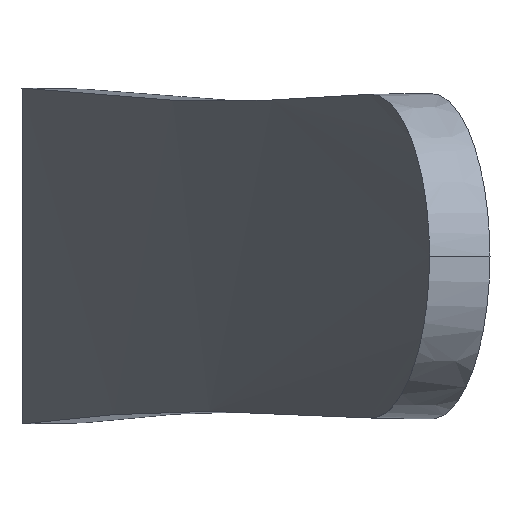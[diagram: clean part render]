
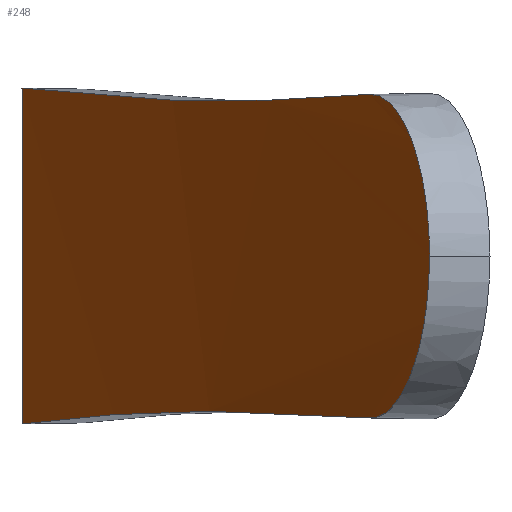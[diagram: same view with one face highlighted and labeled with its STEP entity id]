
A CAD part, left-side view. The second image highlights one B-rep face of the part: STEP entity #248.
In plain terms, the highlighted cylindrical face has radius 1577.46 mm (diameter 3154.93 mm), a partial arc.
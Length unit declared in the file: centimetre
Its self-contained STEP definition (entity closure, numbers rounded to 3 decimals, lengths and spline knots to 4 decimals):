
#19=ELLIPSE('',#265,0.662,0.4345);
#20=ELLIPSE('',#266,1.097,1.0299);
#21=CYLINDRICAL_SURFACE('',#264,157.7463);
#29=LINE('',#415,#40);
#40=VECTOR('',#287,1.);
#56=FACE_OUTER_BOUND('',#71,.T.);
#71=EDGE_LOOP('',(#176,#177,#178,#179,#180,#181,#182,#183,#184,#185,#186));
#84=B_SPLINE_CURVE_WITH_KNOTS('',3,(#333,#334,#335,#336),.UNSPECIFIED.,
 .F.,.F.,(4,4),(-6.1063,-5.673),.UNSPECIFIED.);
#87=B_SPLINE_CURVE_WITH_KNOTS('',3,(#388,#389,#390,#391,#392),
 .UNSPECIFIED.,.F.,.F.,(4,1,4),(5.7285,6.1311,6.668),
 .UNSPECIFIED.);
#88=B_SPLINE_CURVE_WITH_KNOTS('',3,(#395,#396,#397,#398,#399,#400,#401,
#402,#403,#404),.UNSPECIFIED.,.F.,.F.,(4,3,3,4),(0.,0.4429,0.4842,
0.5626),.UNSPECIFIED.);
#89=B_SPLINE_CURVE_WITH_KNOTS('',3,(#406,#407,#408,#409,#410,#411,#412,
#413),.UNSPECIFIED.,.F.,.F.,(4,2,2,4),(0.,3.5186,5.2771,
7.1395),.UNSPECIFIED.);
#90=B_SPLINE_CURVE_WITH_KNOTS('',3,(#416,#417,#418,#419,#420,#421),
 .UNSPECIFIED.,.F.,.F.,(4,2,4),(0.,4.5118,7.0242),
 .UNSPECIFIED.);
#91=B_SPLINE_CURVE_WITH_KNOTS('',3,(#423,#424,#425,#426,#427,#428,#429),
 .UNSPECIFIED.,.F.,.F.,(4,3,4),(0.6529,0.7263,0.7527),
 .UNSPECIFIED.);
#92=B_SPLINE_CURVE_WITH_KNOTS('',3,(#431,#432,#433,#434,#435,#436),
 .UNSPECIFIED.,.F.,.F.,(4,2,4),(0.,0.3632,0.6529),
 .UNSPECIFIED.);
#93=B_SPLINE_CURVE_WITH_KNOTS('',3,(#441,#442,#443,#444),.UNSPECIFIED.,
 .F.,.F.,(4,4),(0.9973,1.1982),.UNSPECIFIED.);
#104=VERTEX_POINT('',#324);
#105=VERTEX_POINT('',#325);
#112=VERTEX_POINT('',#378);
#113=VERTEX_POINT('',#379);
#114=VERTEX_POINT('',#394);
#115=VERTEX_POINT('',#405);
#116=VERTEX_POINT('',#414);
#117=VERTEX_POINT('',#422);
#118=VERTEX_POINT('',#430);
#119=VERTEX_POINT('',#437);
#120=VERTEX_POINT('',#439);
#129=EDGE_CURVE('',#104,#105,#84,.T.);
#138=EDGE_CURVE('',#112,#113,#87,.T.);
#139=EDGE_CURVE('',#114,#104,#88,.T.);
#140=EDGE_CURVE('',#115,#114,#89,.T.);
#141=EDGE_CURVE('',#116,#115,#29,.T.);
#142=EDGE_CURVE('',#113,#116,#90,.T.);
#143=EDGE_CURVE('',#117,#112,#91,.T.);
#144=EDGE_CURVE('',#118,#117,#92,.T.);
#145=EDGE_CURVE('',#119,#118,#19,.T.);
#146=EDGE_CURVE('',#120,#119,#20,.T.);
#147=EDGE_CURVE('',#105,#120,#93,.T.);
#176=ORIENTED_EDGE('',*,*,#139,.F.);
#177=ORIENTED_EDGE('',*,*,#140,.F.);
#178=ORIENTED_EDGE('',*,*,#141,.F.);
#179=ORIENTED_EDGE('',*,*,#142,.F.);
#180=ORIENTED_EDGE('',*,*,#138,.F.);
#181=ORIENTED_EDGE('',*,*,#143,.F.);
#182=ORIENTED_EDGE('',*,*,#144,.F.);
#183=ORIENTED_EDGE('',*,*,#145,.F.);
#184=ORIENTED_EDGE('',*,*,#146,.F.);
#185=ORIENTED_EDGE('',*,*,#147,.F.);
#186=ORIENTED_EDGE('',*,*,#129,.F.);
#248=ADVANCED_FACE('',(#56),#21,.T.);
#264=AXIS2_PLACEMENT_3D('',#393,#285,#286);
#265=AXIS2_PLACEMENT_3D('',#438,#288,#289);
#266=AXIS2_PLACEMENT_3D('',#440,#290,#291);
#285=DIRECTION('center_axis',(0.,0.,-1.));
#286=DIRECTION('ref_axis',(-0.269,0.963,0.));
#287=DIRECTION('',(0.,0.,1.));
#288=DIRECTION('center_axis',(0.339,-0.941,0.));
#289=DIRECTION('ref_axis',(-0.216,-0.078,-0.973));
#290=DIRECTION('center_axis',(0.338,-0.941,0.));
#291=DIRECTION('ref_axis',(0.941,0.338,0.005));
#324=CARTESIAN_POINT('',(-21.5022,1.0685,0.8955));
#325=CARTESIAN_POINT('',(-21.8231,0.9538,0.6316));
#333=CARTESIAN_POINT('Ctrl Pts',(-21.5022,1.0685,0.8955));
#334=CARTESIAN_POINT('Ctrl Pts',(-21.6243,1.025,0.8311));
#335=CARTESIAN_POINT('Ctrl Pts',(-21.7345,0.9856,0.7413));
#336=CARTESIAN_POINT('Ctrl Pts',(-21.8231,0.9538,0.6316));
#378=CARTESIAN_POINT('',(-21.7878,0.9664,-0.6829));
#379=CARTESIAN_POINT('',(-20.9889,1.2502,-1.0244));
#388=CARTESIAN_POINT('Ctrl Pts',(-21.7878,0.9664,-0.6829));
#389=CARTESIAN_POINT('Ctrl Pts',(-21.7004,0.9977,-0.78));
#390=CARTESIAN_POINT('Ctrl Pts',(-21.4556,1.0852,-0.9648));
#391=CARTESIAN_POINT('Ctrl Pts',(-21.158,1.1906,-1.0295));
#392=CARTESIAN_POINT('Ctrl Pts',(-20.9889,1.2502,-1.0244));
#393=CARTESIAN_POINT('Origin',(31.4185,-147.5361,0.002));
#394=CARTESIAN_POINT('',(-20.9892,1.2502,1.0146));
#395=CARTESIAN_POINT('Ctrl Pts',(-20.9892,1.2502,1.0146));
#396=CARTESIAN_POINT('Ctrl Pts',(-21.1284,1.2011,1.0187));
#397=CARTESIAN_POINT('Ctrl Pts',(-21.2682,1.1517,0.994));
#398=CARTESIAN_POINT('Ctrl Pts',(-21.3987,1.1053,0.9427));
#399=CARTESIAN_POINT('Ctrl Pts',(-21.4108,1.101,0.9379));
#400=CARTESIAN_POINT('Ctrl Pts',(-21.4229,1.0967,0.9329));
#401=CARTESIAN_POINT('Ctrl Pts',(-21.4349,1.0924,0.9276));
#402=CARTESIAN_POINT('Ctrl Pts',(-21.4577,1.0843,0.9177));
#403=CARTESIAN_POINT('Ctrl Pts',(-21.4801,1.0763,0.9069));
#404=CARTESIAN_POINT('Ctrl Pts',(-21.5022,1.0685,0.8953));
#405=CARTESIAN_POINT('',(-14.3028,3.439,1.0531));
#406=CARTESIAN_POINT('Ctrl Pts',(-14.3028,3.439,1.0531));
#407=CARTESIAN_POINT('Ctrl Pts',(-15.4244,3.0993,1.007));
#408=CARTESIAN_POINT('Ctrl Pts',(-16.5419,2.7473,0.9811));
#409=CARTESIAN_POINT('Ctrl Pts',(-18.2156,2.1994,0.9716));
#410=CARTESIAN_POINT('Ctrl Pts',(-18.7749,2.0128,0.9734));
#411=CARTESIAN_POINT('Ctrl Pts',(-19.9114,1.6267,0.9868));
#412=CARTESIAN_POINT('Ctrl Pts',(-20.4555,1.4381,0.9988));
#413=CARTESIAN_POINT('Ctrl Pts',(-20.9892,1.2502,1.0146));
#414=CARTESIAN_POINT('',(-14.3025,3.439,-1.0612));
#415=CARTESIAN_POINT('',(-14.3026,3.439,-0.0038));
#416=CARTESIAN_POINT('Ctrl Pts',(-20.9889,1.2502,-1.0244));
#417=CARTESIAN_POINT('Ctrl Pts',(-19.5683,1.7506,-0.9821));
#418=CARTESIAN_POINT('Ctrl Pts',(-18.1396,2.2309,-0.9715));
#419=CARTESIAN_POINT('Ctrl Pts',(-15.9058,2.9465,-1.006));
#420=CARTESIAN_POINT('Ctrl Pts',(-15.1049,3.196,-1.0285));
#421=CARTESIAN_POINT('Ctrl Pts',(-14.3025,3.439,-1.0612));
#422=CARTESIAN_POINT('',(-21.8495,0.9442,-0.6073));
#423=CARTESIAN_POINT('Ctrl Pts',(-21.8493,0.9443,-0.6071));
#424=CARTESIAN_POINT('Ctrl Pts',(-21.8351,0.9494,-0.6263));
#425=CARTESIAN_POINT('Ctrl Pts',(-21.8203,0.9547,-0.6451));
#426=CARTESIAN_POINT('Ctrl Pts',(-21.8048,0.9603,-0.6634));
#427=CARTESIAN_POINT('Ctrl Pts',(-21.7992,0.9623,-0.6699));
#428=CARTESIAN_POINT('Ctrl Pts',(-21.7935,0.9643,-0.6764));
#429=CARTESIAN_POINT('Ctrl Pts',(-21.7877,0.9664,-0.6829));
#430=CARTESIAN_POINT('',(-22.0517,0.8716,-0.0051));
#431=CARTESIAN_POINT('Ctrl Pts',(-22.0517,0.8716,-0.0051));
#432=CARTESIAN_POINT('Ctrl Pts',(-22.0505,0.872,-0.1261));
#433=CARTESIAN_POINT('Ctrl Pts',(-22.0271,0.8804,-0.2463));
#434=CARTESIAN_POINT('Ctrl Pts',(-21.9509,0.9078,-0.448));
#435=CARTESIAN_POINT('Ctrl Pts',(-21.9056,0.9242,-0.5314));
#436=CARTESIAN_POINT('Ctrl Pts',(-21.8495,0.9442,-0.6073));
#437=CARTESIAN_POINT('',(-22.0135,0.8854,0.2629));
#438=CARTESIAN_POINT('Origin',(-21.6289,1.0238,0.1096));
#439=CARTESIAN_POINT('',(-21.9311,0.915,0.4682));
#440=CARTESIAN_POINT('Origin',(-21.0191,1.2419,-0.0144));
#441=CARTESIAN_POINT('Ctrl Pts',(-21.8231,0.9538,0.6316));
#442=CARTESIAN_POINT('Ctrl Pts',(-21.8638,0.9392,0.5804));
#443=CARTESIAN_POINT('Ctrl Pts',(-21.9,0.9262,0.5253));
#444=CARTESIAN_POINT('Ctrl Pts',(-21.9311,0.915,0.4682));
